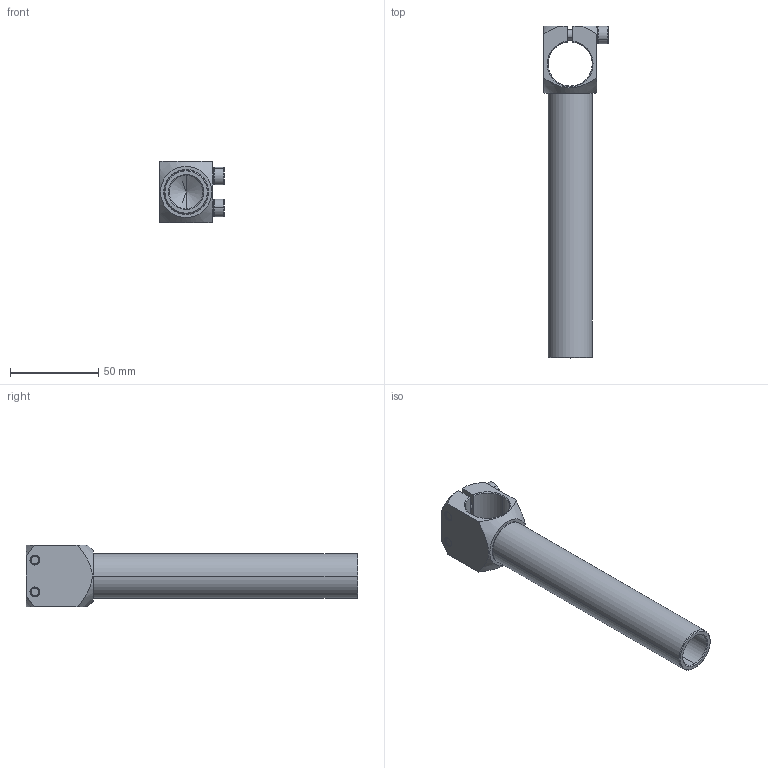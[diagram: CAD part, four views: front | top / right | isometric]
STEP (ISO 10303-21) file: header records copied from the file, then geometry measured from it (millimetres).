
FILE_DESCRIPTION (( 'STEP AP203' ), '1' );
FILE_NAME ('7.Y02032-SCA2-2525L150.STEP', '2024-01-23T09:38:56', ( '微软用户' ), ( '微软中国' ), 'SwSTEP 2.0', 'SolidWorks 2018', '' );
FILE_SCHEMA (( 'CONFIG_CONTROL_DESIGN' ));
Length unit declared in the file: millimetre
Products named in the file (4): 20.07.1.20001283; PTS-M6; PTC-M6L30; 7.Y02032-SCA2-2525L150
Assembly tree (5 placements, depth 2):
  7.Y02032-SCA2-2525L150
    20.07.1.20001283
    PTS-M6  x2
    PTC-M6L30  x2
Bounding box: 36.65 x 188 x 35 mm (x, y, z)
Volume: 53968.7 mm3; surface area: 31970.9 mm2
Topology: 5 solids, 5 shells, 497 faces, 1398 edges, 911 vertices
Faces by surface type: plane 426, cone 34, cylinder 31, torus 6
Entity records: 9436 total; most frequent: CARTESIAN_POINT 1704, DIRECTION 1576, ORIENTED_EDGE 1524, EDGE_CURVE 762, AXIS2_PLACEMENT_3D 549, VERTEX_POINT 495, VECTOR 478, LINE 478
